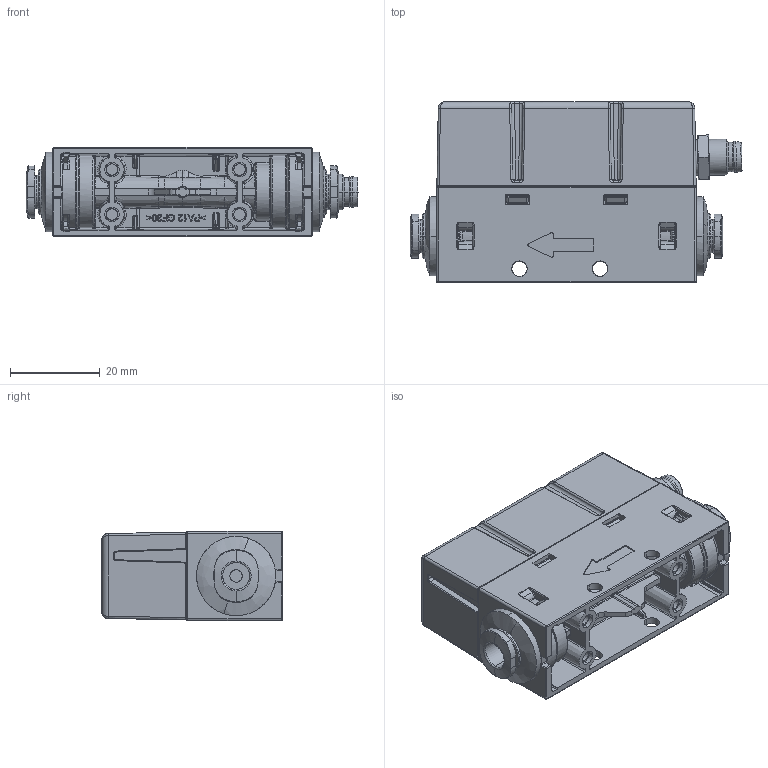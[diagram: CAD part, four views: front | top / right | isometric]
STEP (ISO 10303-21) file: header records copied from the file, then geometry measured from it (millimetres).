
FILE_DESCRIPTION (( 'STEP AP214' ), '1' );
FILE_NAME ('163178-00_public model SFM6000.step', '2023-01-12T11:37:50', ( '' ), ( '' ), 'SwSTEP 2.0', 'SolidWorks 2021', '' );
FILE_SCHEMA (( 'AUTOMOTIVE_DESIGN' ));
Length unit declared in the file: millimetre
Products named in the file (1): 163178-00_public model SFM6000
Bounding box: 74.13 x 40.3 x 20 mm (x, y, z)
Volume: 40105.2 mm3; surface area: 15737.1 mm2
Topology: 1 solids, 1 shells, 1556 faces, 3795 edges, 2262 vertices
Faces by surface type: bspline 618, cylinder 472, plane 363, cone 101, torus 2
Entity records: 84623 total; most frequent: CARTESIAN_POINT 36674, ORIENTED_EDGE 7526, DIRECTION 4932, EDGE_CURVE 3763, VERTEX_POINT 2262, AXIS2_PLACEMENT_3D 1775, EDGE_LOOP 1627, FACE_OUTER_BOUND 1556
